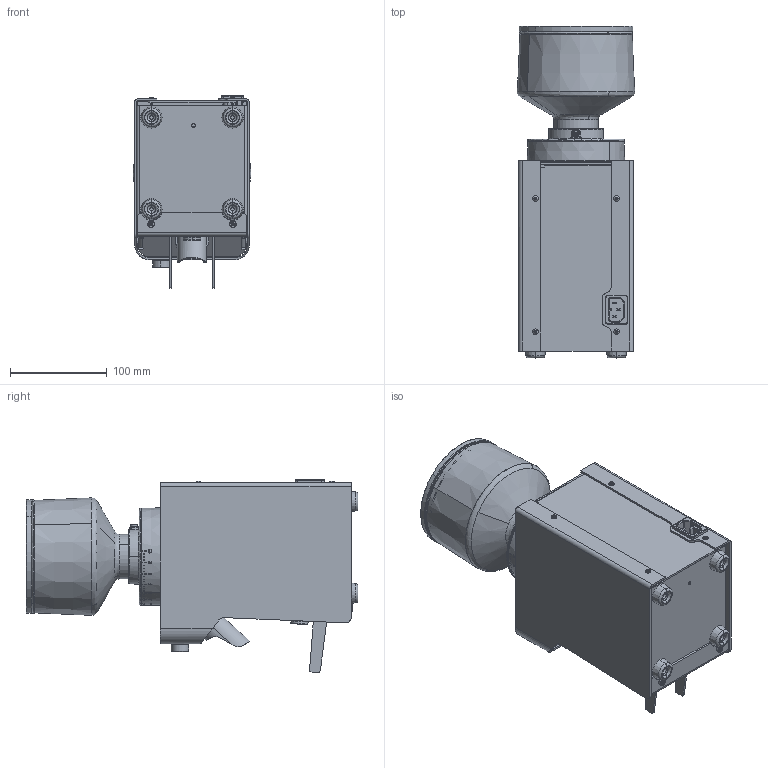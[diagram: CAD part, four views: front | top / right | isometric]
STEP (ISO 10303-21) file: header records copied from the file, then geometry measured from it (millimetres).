
FILE_DESCRIPTION (( 'STEP AP214' ), '1' );
FILE_NAME ('Zuriga G2 ASSEMBLY-STP.STEP', '2025-06-23T15:09:48', ( '' ), ( '' ), 'SwSTEP 2.0', 'SolidWorks 2022', '' );
FILE_SCHEMA (( 'AUTOMOTIVE_DESIGN' ));
Length unit declared in the file: millimetre
Products named in the file (43): 100411.STEP.STEP.STEP; 100407.STEP.STEP.STEP; 100375.STEP.STEP.STEP; 100414.STEP.STEP.STEP; 100409.STEP.STEP.STEP; 100525.STEP.STEP.STEP; 100419.STEP.STEP.STEP; 100349.STEP.STEP.STEP; 100372.STEP-2.STEP.STEP; 100387.STEP.STEP.STEP; 100390.STEP.STEP.STEP; 100372.STEP-0.STEP.STEP; 100499.STEP.STEP.STEP; 100434.STEP.STEP.STEP; 100415.STEP.STEP.STEP; 100347.STEP.STEP.STEP; 100397.STEP.STEP.STEP; 100227.STEP.STEP.STEP; Zuriga G2 ASSEMBLY-STP.STEP.STEP; 100431.STEP.STEP.STEP; 100417.STEP.STEP.STEP; 100351.STEP.STEP.STEP; 100416.STEP.STEP.STEP; Zuriga G2 ASSEMBLY-STP.STEP.STEP.STEP; 100392.STEP.STEP.STEP; 100420.STEP.STEP.STEP; 100396.STEP.STEP.STEP; 100367.STEP.STEP.STEP; 100360.STEP.STEP.STEP; 100373.STEP.STEP.STEP; 100412.STEP.STEP.STEP; 100394.STEP.STEP.STEP; 100513.STEP.STEP.STEP; 100372.STEP-1.STEP.STEP; 100813.STEP.STEP.STEP; Zuriga G2 ASSEMBLY-STP.STEP; 100381.STEP.STEP.STEP; 100408.STEP.STEP.STEP; 100413.STEP.STEP.STEP; 100372.STEP.STEP.STEP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
Assembly tree (51 placements, depth 7):
  Zuriga G2 ASSEMBLY-STP
    Zuriga G2 ASSEMBLY-STP.STEP
      Zuriga G2 ASSEMBLY-STP.STEP.STEP
        Zuriga G2 ASSEMBLY-STP.STEP.STEP.STEP
          100513.STEP.STEP.STEP
            100419.STEP.STEP.STEP
              100420.STEP.STEP.STEP
            100375.STEP.STEP.STEP
              100381.STEP.STEP.STEP
              100387.STEP.STEP.STEP
              100762.STEP.STEP.STEP
            100525.STEP.STEP.STEP
              100499.STEP.STEP.STEP
            100227.STEP.STEP.STEP  x4
          100431.STEP.STEP.STEP
            100813.STEP.STEP.STEP
            100434.STEP.STEP.STEP  x4
          100347.STEP.STEP.STEP
            100349.STEP.STEP.STEP
              100351.STEP.STEP.STEP
            100367.STEP.STEP.STEP
            100373.STEP.STEP.STEP
            100360.STEP.STEP.STEP
            100372.STEP.STEP.STEP
            100372.STEP-0.STEP.STEP
            100372.STEP-1.STEP.STEP
            100372.STEP-2.STEP.STEP
            100154.STEP.STEP.STEP
          100390.STEP.STEP.STEP
            100394.STEP.STEP.STEP
              100396.STEP.STEP.STEP
            100154.STEP.STEP.STEP  x2
            100392.STEP.STEP.STEP
            100397.STEP.STEP.STEP  x2
          100407.STEP.STEP.STEP
            100413.STEP.STEP.STEP
              100414.STEP.STEP.STEP
              100415.STEP.STEP.STEP
              100416.STEP.STEP.STEP
              100417.STEP.STEP.STEP
            100409.STEP.STEP.STEP
              100412.STEP.STEP.STEP
              100411.STEP.STEP.STEP
            100408.STEP.STEP.STEP
Bounding box: 121.87 x 343.65 x 199.37 mm (x, y, z)
Volume: 601652.6 mm3; surface area: 507251.3 mm2
Topology: 38 solids, 40 shells, 2977 faces, 7579 edges, 4782 vertices
Faces by surface type: plane 1159, cylinder 835, bspline 690, cone 267, torus 26
Entity records: 128593 total; most frequent: CARTESIAN_POINT 63707, ORIENTED_EDGE 14212, DIRECTION 11020, EDGE_CURVE 7108, VERTEX_POINT 4527, AXIS2_PLACEMENT_3D 3769, VECTOR 3482, LINE 3482
